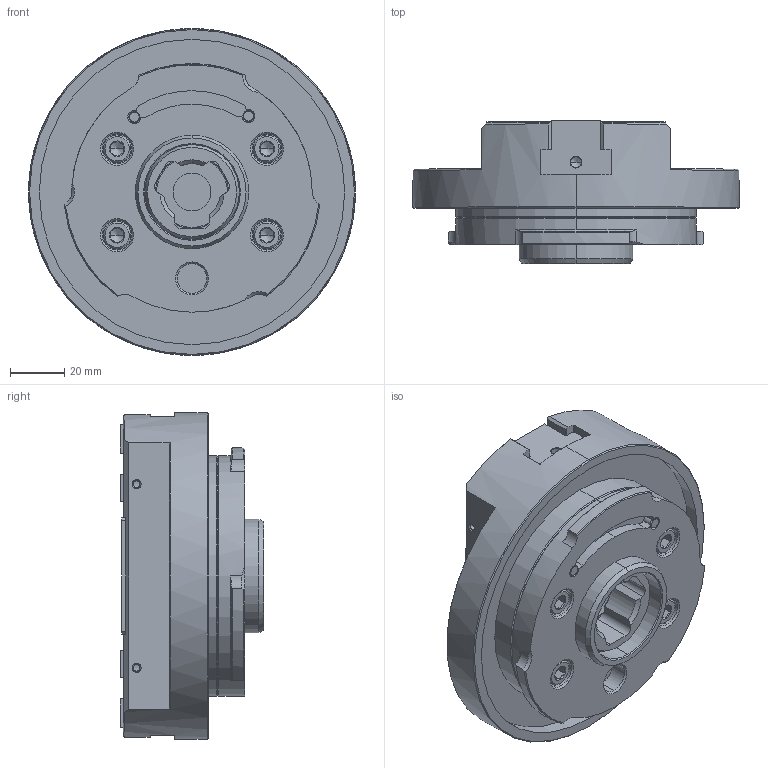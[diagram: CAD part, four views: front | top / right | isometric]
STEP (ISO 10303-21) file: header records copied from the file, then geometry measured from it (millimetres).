
FILE_DESCRIPTION (( 'STEP AP214' ), '1' );
FILE_NAME ('QGB21112-HCL.STEP', '2026-01-08T02:52:25', ( '' ), ( '' ), 'SwSTEP 2.0', 'SolidWorks 2022', '' );
FILE_SCHEMA (( 'AUTOMOTIVE_DESIGN' ));
Length unit declared in the file: millimetre
Products named in the file (9): Copy of 003BNA0005^ASSY_HP-QG21112-Assy-61G299499-20260105; ASSY^HP-QG21112-Assy-61G299499-20260105_HCL（中央）; QGB21112-HCL; MASTER JAW^ASSY_HP-QG21112-Assy-61G299499-20260105; BOLT^ASSY_HP-QG21112-Assy-61G299499-20260105; PARALLEL PIN^ASSY_HP-QG21112-Assy-61G299499-20260105; S-SARA^ASSY_HP-QG21112-Assy-61G299499-20260105; COVER^ASSY_HP-QG21112-Assy-61G299499-20260105; MAIN-HCL^HP-QG21112-Assy-61G299499-20260105
Assembly tree (16 placements, depth 3):
  QGB21112-HCL
    ASSY^HP-QG21112-Assy-61G299499-20260105_HCL（中央）
      MASTER JAW^ASSY_HP-QG21112-Assy-61G299499-20260105  x2
      COVER^ASSY_HP-QG21112-Assy-61G299499-20260105
      BOLT^ASSY_HP-QG21112-Assy-61G299499-20260105  x4
      Copy of 003BNA0005^ASSY_HP-QG21112-Assy-61G299499-20260105
      S-SARA^ASSY_HP-QG21112-Assy-61G299499-20260105  x4
      PARALLEL PIN^ASSY_HP-QG21112-Assy-61G299499-20260105  x2
    MAIN-HCL^HP-QG21112-Assy-61G299499-20260105
Bounding box: 121 x 53 x 121 mm (x, y, z)
Volume: 330680.7 mm3; surface area: 75549.6 mm2
Topology: 15 solids, 15 shells, 1668 faces, 4537 edges, 2949 vertices
Faces by surface type: plane 1170, cylinder 201, cone 187, bspline 100, torus 10
Entity records: 53203 total; most frequent: CARTESIAN_POINT 14460, ORIENTED_EDGE 8046, DIRECTION 6886, EDGE_CURVE 4023, LINE 3268, VECTOR 3268, VERTEX_POINT 2643, AXIS2_PLACEMENT_3D 1809
